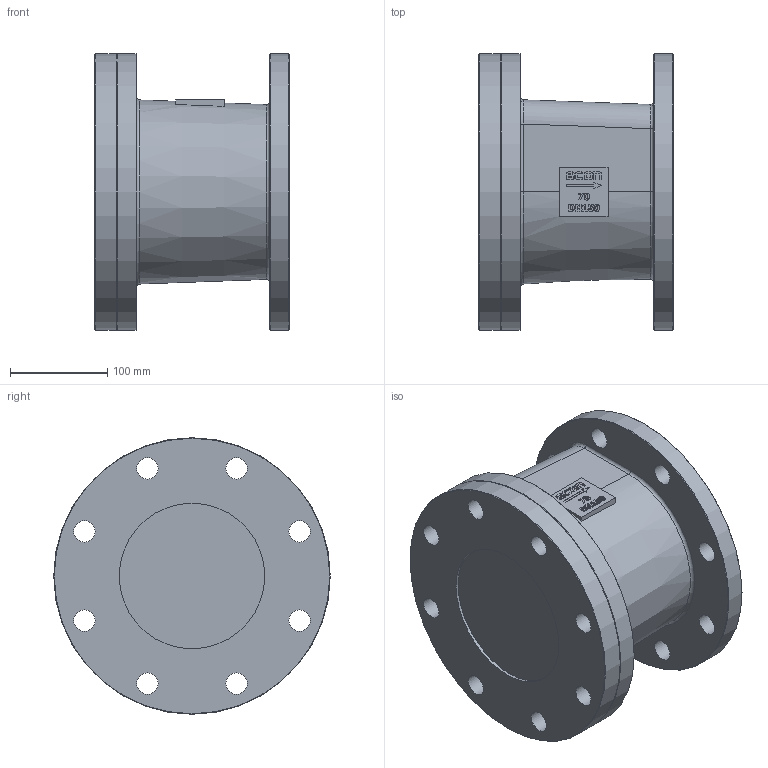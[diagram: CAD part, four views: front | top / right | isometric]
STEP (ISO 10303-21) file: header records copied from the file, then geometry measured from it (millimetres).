
FILE_DESCRIPTION(/* description */ ('11810422'),/* implementation_level */ '2;1');
FILE_NAME(/* name */ 'L:\DATA\ENG\Inventor\Econ 3D modellen\terugslagklep\70NGY\70NGY-DN150-PN16-NBR.stp',/* time_stamp */ '2023-12-05T08:13:55+01:00',/* author */ ('roger.thijssen'),/* organization */ (''),/* preprocessor_version */ 'ST-DEVELOPER v18',/* originating_system */ 'Autodesk Inventor 2020',/* authorisation */ '');
FILE_SCHEMA (('CONFIG_CONTROL_DESIGN'));
Length unit declared in the file: millimetre
Products named in the file (1): Check valve, 70NGY-DN150-PN16-NBR
Bounding box: 200 x 285 x 285 mm (x, y, z)
Volume: 7874839.5 mm3; surface area: 362465.9 mm2
Topology: 1 solids, 1 shells, 217 faces, 578 edges, 384 vertices
Faces by surface type: plane 115, bspline 51, cylinder 42, cone 7, torus 2
Full cylindrical faces by diameter (mm): 22 x16, 150 x2, 285 x3
Entity records: 7403 total; most frequent: CARTESIAN_POINT 2072, ORIENTED_EDGE 1156, DIRECTION 931, EDGE_CURVE 578, VERTEX_POINT 384, LINE 369, VECTOR 369, AXIS2_PLACEMENT_3D 281
